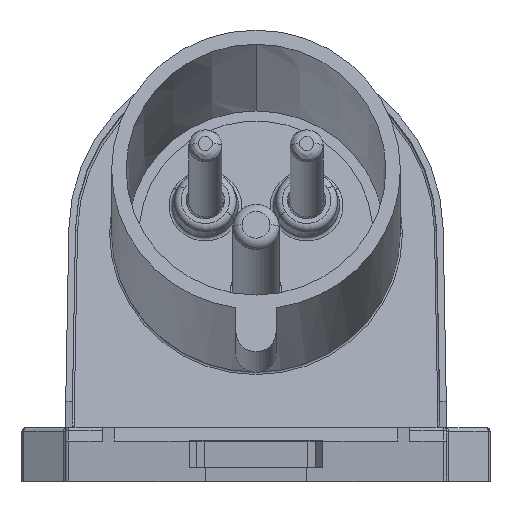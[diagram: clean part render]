
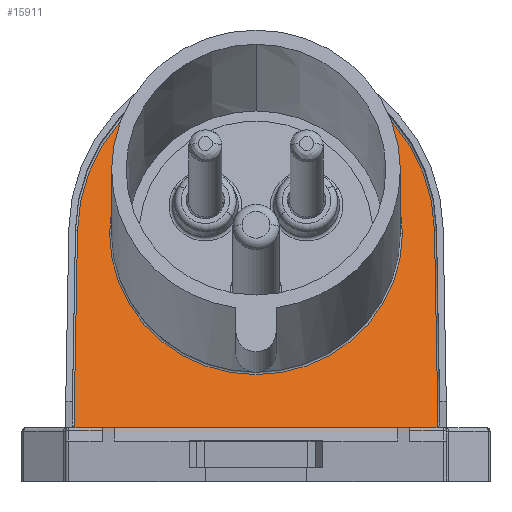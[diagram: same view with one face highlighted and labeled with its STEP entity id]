
A CAD part, top view. The second image highlights one B-rep face of the part: STEP entity #15911.
In plain terms, the highlighted planar face has unit normal (0, 0.259, 0.966).
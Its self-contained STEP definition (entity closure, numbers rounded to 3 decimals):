
#4302=DIRECTION('',(-1.,0.,0.));
#4303=VECTOR('',#4302,4.225);
#4304=CARTESIAN_POINT('',(27.225,8.,-0.495));
#4305=LINE('1205',#4304,#4303);
#5087=DIRECTION('',(-1.,0.,0.));
#5088=VECTOR('',#5087,4.225);
#5089=CARTESIAN_POINT('',(-23.,8.,-0.495));
#5090=LINE('1207',#5089,#5088);
#5229=DIRECTION('',(0.017,0.966,-0.259));
#5230=VECTOR('',#5229,30.579);
#5231=CARTESIAN_POINT('',(-27.225,8.,-0.495));
#5232=LINE('1036',#5231,#5230);
#5236=CARTESIAN_POINT('',(0.,37.086,-8.289));
#5237=DIRECTION('',(0.,-0.259,-0.966));
#5238=DIRECTION('',(-1.,0.017,-0.004));
#5239=AXIS2_PLACEMENT_3D('',#5236,#5237,#5238);
#5244=DIRECTION('',(0.017,-0.966,0.259));
#5245=VECTOR('',#5244,30.579);
#5246=CARTESIAN_POINT('',(26.696,37.532,-8.408));
#5247=LINE('1031',#5246,#5245);
#5251=CARTESIAN_POINT('',(0.,37.086,-8.289));
#5252=DIRECTION('',(0.,0.259,0.966));
#5253=DIRECTION('',(-1.,0.,0.));
#5254=AXIS2_PLACEMENT_3D('',#5251,#5252,#5253);
#5259=CARTESIAN_POINT('',(0.,37.086,-8.289));
#5260=DIRECTION('',(0.,0.259,0.966));
#5261=DIRECTION('',(1.,0.,0.));
#5262=AXIS2_PLACEMENT_3D('',#5259,#5260,#5261);
#5332=DIRECTION('',(1.,0.,0.));
#5333=VECTOR('',#5332,1.85);
#5334=CARTESIAN_POINT('',(21.15,8.,-0.495));
#5335=LINE('1070',#5334,#5333);
#5610=DIRECTION('',(-1.,0.,0.));
#5611=VECTOR('',#5610,42.3);
#5612=CARTESIAN_POINT('',(21.15,8.,-0.495));
#5613=LINE('1206',#5612,#5611);
#5708=DIRECTION('',(1.,0.,0.));
#5709=VECTOR('',#5708,1.85);
#5710=CARTESIAN_POINT('',(-23.,8.,-0.495));
#5711=LINE('1069',#5710,#5709);
#8945=CARTESIAN_POINT('',(26.696,37.532,-8.408));
#8946=CARTESIAN_POINT('',(27.225,8.,-0.495));
#8947=VERTEX_POINT('',#8945);
#8948=VERTEX_POINT('',#8946);
#8953=CARTESIAN_POINT('',(-26.696,37.532,
-8.408));
#8954=VERTEX_POINT('',#8953);
#8959=CARTESIAN_POINT('',(-27.225,8.,-0.495));
#8960=VERTEX_POINT('',#8959);
#8961=CARTESIAN_POINT('',(-21.9,37.086,-8.289));
#8962=CARTESIAN_POINT('',(21.9,37.086,-8.289));
#8963=VERTEX_POINT('',#8961);
#8964=VERTEX_POINT('',#8962);
#8991=CARTESIAN_POINT('',(-23.,8.,-0.495));
#8992=CARTESIAN_POINT('',(-21.15,8.,-0.495));
#8993=VERTEX_POINT('',#8991);
#8994=VERTEX_POINT('',#8992);
#8995=CARTESIAN_POINT('',(21.15,8.,-0.495));
#8996=CARTESIAN_POINT('',(23.,8.,-0.495));
#8997=VERTEX_POINT('',#8995);
#8998=VERTEX_POINT('',#8996);
#15886=CARTESIAN_POINT('',(0.,23.838,-4.739));
#15887=DIRECTION('',(0.,0.259,0.966));
#15888=DIRECTION('',(1.,0.,0.));
#15889=AXIS2_PLACEMENT_3D('',#15886,#15887,#15888);
#15890=PLANE('211',#15889);
#15891=ORIENTED_EDGE('1207',*,*,#15698,.T.);
#15892=ORIENTED_EDGE('1036',*,*,#15841,.T.);
#15893=ORIENTED_EDGE('1033',*,*,#15864,.T.);
#15895=ORIENTED_EDGE('1031',*,*,#15894,.T.);
#15896=ORIENTED_EDGE('1205',*,*,#14637,.T.);
#15898=ORIENTED_EDGE('1070',*,*,#15897,.F.);
#15900=ORIENTED_EDGE('1206',*,*,#15899,.T.);
#15902=ORIENTED_EDGE('1069',*,*,#15901,.F.);
#15903=EDGE_LOOP('211',(#15891,#15892,#15893,#15895,#15896,#15898,#15900,
#15902));
#15904=FACE_OUTER_BOUND('211',#15903,.F.);
#15906=ORIENTED_EDGE('1037',*,*,#15905,.T.);
#15908=ORIENTED_EDGE('1039',*,*,#15907,.T.);
#15909=EDGE_LOOP('211',(#15906,#15908));
#15910=FACE_BOUND('211',#15909,.F.);
#5240=CIRCLE('1033',#5239,26.7);
#5255=CIRCLE('1037',#5254,21.9);
#5263=CIRCLE('1039',#5262,21.9);
#14637=EDGE_CURVE('1205',#8948,#8998,#4305,.T.);
#15698=EDGE_CURVE('1207',#8993,#8960,#5090,.T.);
#15841=EDGE_CURVE('1036',#8960,#8954,#5232,.T.);
#15864=EDGE_CURVE('1033',#8954,#8947,#5240,.T.);
#15894=EDGE_CURVE('1031',#8947,#8948,#5247,.T.);
#15897=EDGE_CURVE('1070',#8997,#8998,#5335,.T.);
#15899=EDGE_CURVE('1206',#8997,#8994,#5613,.T.);
#15901=EDGE_CURVE('1069',#8993,#8994,#5711,.T.);
#15905=EDGE_CURVE('1037',#8963,#8964,#5255,.T.);
#15907=EDGE_CURVE('1039',#8964,#8963,#5263,.T.);
#15911=ADVANCED_FACE('211',(#15904,#15910),#15890,.T.);
